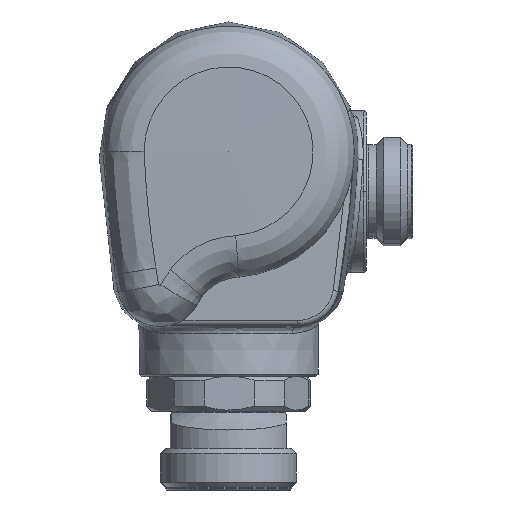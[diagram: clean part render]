
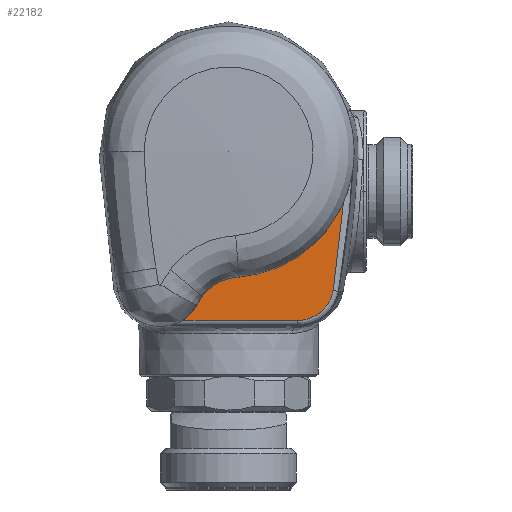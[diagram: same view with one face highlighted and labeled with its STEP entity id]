
A CAD part, left-side view. The second image highlights one B-rep face of the part: STEP entity #22182.
In plain terms, the highlighted planar face has unit normal (-1, 0, 0).
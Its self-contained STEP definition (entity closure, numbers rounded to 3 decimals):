
#790 = CARTESIAN_POINT ( 'NONE',  ( 378.012, 590.69, 965.779 ) ) ;
#1641 = DIRECTION ( 'NONE',  ( 0., 1., 0. ) ) ;
#3307 = CARTESIAN_POINT ( 'NONE',  ( 378.012, 552.913, 995.645 ) ) ;
#3372 = EDGE_CURVE ( 'NONE', #22702, #12623, #7403, .T. ) ;
#3636 = CARTESIAN_POINT ( 'NONE',  ( 378.012, 552.928, 995.385 ) ) ;
#4738 = VECTOR ( 'NONE', #21737, 1000. ) ;
#4924 = CARTESIAN_POINT ( 'NONE',  ( 378.012, 562.6, 965.779 ) ) ;
#5029 = CARTESIAN_POINT ( 'NONE',  ( 378.012, 555.707, 971.552 ) ) ;
#5113 = ORIENTED_EDGE ( 'NONE', *, *, #13737, .T. ) ;
#5848 = B_SPLINE_CURVE_WITH_KNOTS ( 'NONE', 3,
 ( #27765, #20046, #12530, #17947, #22609, #17623, #7406, #32747 ),
 .UNSPECIFIED., .F., .F.,
 ( 4, 2, 2, 4 ),
 ( 0.806, 0.813, 0.875, 1. ),
 .UNSPECIFIED. ) ;
#6311 = CARTESIAN_POINT ( 'NONE',  ( 378.012, 555.707, 971.552 ) ) ;
#7243 = CARTESIAN_POINT ( 'NONE',  ( 378.012, 559.359, 966.362 ) ) ;
#7403 = B_SPLINE_CURVE_WITH_KNOTS ( 'NONE', 3,
 ( #4924, #22322, #7243, #30155, #29820, #5029 ),
 .UNSPECIFIED., .F., .F.,
 ( 4, 2, 4 ),
 ( 0., 0.5, 1. ),
 .UNSPECIFIED. ) ;
#7406 = CARTESIAN_POINT ( 'NONE',  ( 378.012, 596.866, 976.758 ) ) ;
#8533 = VERTEX_POINT ( 'NONE', #28909 ) ;
#9634 = EDGE_CURVE ( 'NONE', #12623, #15208, #11790, .T. ) ;
#10654 = CARTESIAN_POINT ( 'NONE',  ( 378.012, 562.6, 965.779 ) ) ;
#10758 = CARTESIAN_POINT ( 'NONE',  ( 378.012, 594.797, 968.464 ) ) ;
#10853 = CARTESIAN_POINT ( 'NONE',  ( 378.012, 554.064, 981.983 ) ) ;
#10959 = CARTESIAN_POINT ( 'NONE',  ( 378.012, 553.094, 992.489 ) ) ;
#11790 = B_SPLINE_CURVE_WITH_KNOTS ( 'NONE', 3,
 ( #26128, #23696, #10853, #28842, #10959, #3636, #3307, #23803 ),
 .UNSPECIFIED., .F., .F.,
 ( 4, 2, 2, 4 ),
 ( 0., 0.125, 0.188, 0.194 ),
 .UNSPECIFIED. ) ;
#11842 = PLANE ( 'NONE',  #25296 ) ;
#12024 = EDGE_CURVE ( 'NONE', #8533, #22702, #32069, .T. ) ;
#12452 = FACE_OUTER_BOUND ( 'NONE', #18812, .T. ) ;
#12514 = ORIENTED_EDGE ( 'NONE', *, *, #9634, .T. ) ;
#12530 = CARTESIAN_POINT ( 'NONE',  ( 378.012, 598.719, 995.389 ) ) ;
#12623 = VERTEX_POINT ( 'NONE', #6311 ) ;
#13737 = EDGE_CURVE ( 'NONE', #15208, #25284, #14241, .T. ) ;
#14099 = B_SPLINE_CURVE_WITH_KNOTS ( 'NONE', 3,
 ( #23396, #23607, #10758, #23508, #790, #26363 ),
 .UNSPECIFIED., .F., .F.,
 ( 4, 2, 4 ),
 ( 0., 0.5, 1. ),
 .UNSPECIFIED. ) ;
#14241 = CIRCLE ( 'NONE', #25194, 23.048 ) ;
#14624 = DIRECTION ( 'NONE',  ( -1., 0., 0. ) ) ;
#15208 = VERTEX_POINT ( 'NONE', #19202 ) ;
#16275 = EDGE_CURVE ( 'NONE', #19401, #8533, #14099, .T. ) ;
#16848 = CARTESIAN_POINT ( 'NONE',  ( 378.012, 751.633, 1006.472 ) ) ;
#17623 = CARTESIAN_POINT ( 'NONE',  ( 378.012, 597.584, 981.986 ) ) ;
#17947 = CARTESIAN_POINT ( 'NONE',  ( 378.012, 598.554, 992.495 ) ) ;
#18812 = EDGE_LOOP ( 'NONE', ( #12514, #5113, #30385, #20605, #31558, #30451 ) ) ;
#19124 = CARTESIAN_POINT ( 'NONE',  ( 378.012, 595.94, 971.552 ) ) ;
#19196 = CARTESIAN_POINT ( 'NONE',  ( 378.012, 575.824, 965.779 ) ) ;
#19202 = CARTESIAN_POINT ( 'NONE',  ( 378.012, 552.898, 995.905 ) ) ;
#19401 = VERTEX_POINT ( 'NONE', #19124 ) ;
#20046 = CARTESIAN_POINT ( 'NONE',  ( 378.012, 598.735, 995.646 ) ) ;
#20605 = ORIENTED_EDGE ( 'NONE', *, *, #16275, .T. ) ;
#21737 = DIRECTION ( 'NONE',  ( 0., -1., 0. ) ) ;
#22159 = DIRECTION ( 'NONE',  ( 0., 0., 1. ) ) ;
#22182 = ADVANCED_FACE ( 'NONE', ( #12452 ), #11842, .T. ) ;
#22322 = CARTESIAN_POINT ( 'NONE',  ( 378.012, 560.958, 965.779 ) ) ;
#22386 = CARTESIAN_POINT ( 'NONE',  ( 378.012, 575.824, 998.279 ) ) ;
#22609 = CARTESIAN_POINT ( 'NONE',  ( 378.012, 598.35, 989.864 ) ) ;
#22702 = VERTEX_POINT ( 'NONE', #10654 ) ;
#23396 = CARTESIAN_POINT ( 'NONE',  ( 378.012, 595.94, 971.552 ) ) ;
#23508 = CARTESIAN_POINT ( 'NONE',  ( 378.012, 592.289, 966.362 ) ) ;
#23607 = CARTESIAN_POINT ( 'NONE',  ( 378.012, 595.652, 969.935 ) ) ;
#23696 = CARTESIAN_POINT ( 'NONE',  ( 378.012, 554.781, 976.756 ) ) ;
#23803 = CARTESIAN_POINT ( 'NONE',  ( 378.012, 552.898, 995.905 ) ) ;
#24924 = DIRECTION ( 'NONE',  ( 1., 0., 0. ) ) ;
#25194 = AXIS2_PLACEMENT_3D ( 'NONE', #22386, #24924, #22159 ) ;
#25284 = VERTEX_POINT ( 'NONE', #29950 ) ;
#25296 = AXIS2_PLACEMENT_3D ( 'NONE', #16848, #14624, #1641 ) ;
#26128 = CARTESIAN_POINT ( 'NONE',  ( 378.012, 555.707, 971.552 ) ) ;
#26363 = CARTESIAN_POINT ( 'NONE',  ( 378.012, 589.047, 965.779 ) ) ;
#26950 = EDGE_CURVE ( 'NONE', #25284, #19401, #5848, .T. ) ;
#27765 = CARTESIAN_POINT ( 'NONE',  ( 378.012, 598.749, 995.903 ) ) ;
#28842 = CARTESIAN_POINT ( 'NONE',  ( 378.012, 553.297, 989.858 ) ) ;
#28909 = CARTESIAN_POINT ( 'NONE',  ( 378.012, 589.047, 965.779 ) ) ;
#29820 = CARTESIAN_POINT ( 'NONE',  ( 378.012, 555.995, 969.935 ) ) ;
#29950 = CARTESIAN_POINT ( 'NONE',  ( 378.012, 598.749, 995.903 ) ) ;
#30155 = CARTESIAN_POINT ( 'NONE',  ( 378.012, 556.85, 968.464 ) ) ;
#30385 = ORIENTED_EDGE ( 'NONE', *, *, #26950, .T. ) ;
#30451 = ORIENTED_EDGE ( 'NONE', *, *, #3372, .T. ) ;
#31558 = ORIENTED_EDGE ( 'NONE', *, *, #12024, .T. ) ;
#32069 = LINE ( 'NONE', #19196, #4738 ) ;
#32747 = CARTESIAN_POINT ( 'NONE',  ( 378.012, 595.94, 971.552 ) ) ;
